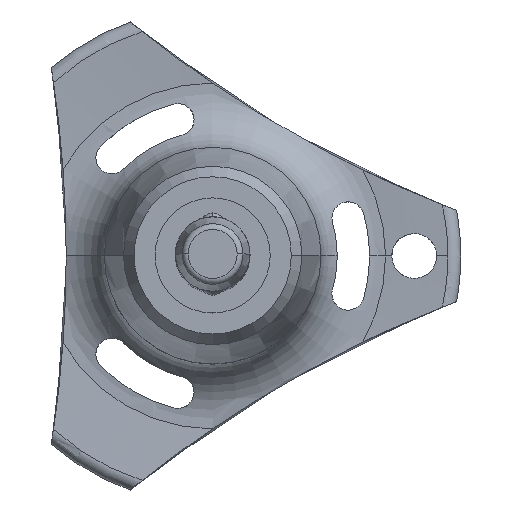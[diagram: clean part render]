
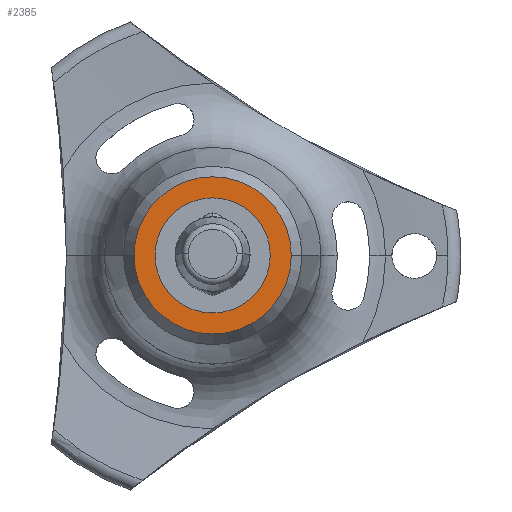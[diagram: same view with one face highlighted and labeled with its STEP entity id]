
A CAD part, top view. The second image highlights one B-rep face of the part: STEP entity #2385.
In plain terms, the highlighted planar face has unit normal (0, 0, 1).
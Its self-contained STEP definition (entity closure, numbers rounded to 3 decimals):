
#142 = EDGE_CURVE ( 'NONE', #434, #2759, #151, .T. ) ;
#151 = CIRCLE ( 'NONE', #2487, 3.852 ) ;
#228 = EDGE_CURVE ( 'NONE', #2759, #434, #1050, .T. ) ;
#318 = EDGE_CURVE ( 'NONE', #1292, #2617, #1139, .T. ) ;
#330 = CARTESIAN_POINT ( 'NONE',  ( 0., 0., -50.4 ) ) ;
#388 = FACE_OUTER_BOUND ( 'NONE', #2624, .T. ) ;
#391 = ORIENTED_EDGE ( 'NONE', *, *, #228, .T. ) ;
#406 = PLANE ( 'NONE',  #1776 ) ;
#434 = VERTEX_POINT ( 'NONE', #1289 ) ;
#535 = DIRECTION ( 'NONE',  ( -1., 0., 0. ) ) ;
#560 = AXIS2_PLACEMENT_3D ( 'NONE', #330, #1800, #573 ) ;
#573 = DIRECTION ( 'NONE',  ( -1., 0., 0. ) ) ;
#599 = CARTESIAN_POINT ( 'NONE',  ( 0., 3.852, -50.4 ) ) ;
#632 = DIRECTION ( 'NONE',  ( 0., 0., 1. ) ) ;
#833 = AXIS2_PLACEMENT_3D ( 'NONE', #1857, #1980, #2367 ) ;
#951 = CARTESIAN_POINT ( 'NONE',  ( 0., 0., -50.4 ) ) ;
#1050 = CIRCLE ( 'NONE', #560, 3.852 ) ;
#1139 = CIRCLE ( 'NONE', #1586, 5.262 ) ;
#1262 = DIRECTION ( 'NONE',  ( 1., 0., 0. ) ) ;
#1289 = CARTESIAN_POINT ( 'NONE',  ( 3.852, 0., -50.4 ) ) ;
#1292 = VERTEX_POINT ( 'NONE', #1938 ) ;
#1586 = AXIS2_PLACEMENT_3D ( 'NONE', #2570, #1872, #2521 ) ;
#1663 = CARTESIAN_POINT ( 'NONE',  ( -3.852, 0., -50.4 ) ) ;
#1776 = AXIS2_PLACEMENT_3D ( 'NONE', #599, #632, #1262 ) ;
#1800 = DIRECTION ( 'NONE',  ( 0., 0., -1. ) ) ;
#1807 = ORIENTED_EDGE ( 'NONE', *, *, #318, .F. ) ;
#1827 = CARTESIAN_POINT ( 'NONE',  ( -5.262, 0., -50.4 ) ) ;
#1857 = CARTESIAN_POINT ( 'NONE',  ( 0., 0., -50.4 ) ) ;
#1872 = DIRECTION ( 'NONE',  ( 0., 0., -1. ) ) ;
#1880 = EDGE_LOOP ( 'NONE', ( #391, #2578 ) ) ;
#1938 = CARTESIAN_POINT ( 'NONE',  ( 5.262, 0., -50.4 ) ) ;
#1980 = DIRECTION ( 'NONE',  ( 0., 0., -1. ) ) ;
#2266 = CIRCLE ( 'NONE', #833, 5.262 ) ;
#2367 = DIRECTION ( 'NONE',  ( -1., 0., 0. ) ) ;
#2385 = ADVANCED_FACE ( 'NONE', ( #2554, #388 ), #406, .T. ) ;
#2403 = ORIENTED_EDGE ( 'NONE', *, *, #2476, .F. ) ;
#2476 = EDGE_CURVE ( 'NONE', #2617, #1292, #2266, .T. ) ;
#2487 = AXIS2_PLACEMENT_3D ( 'NONE', #951, #2661, #535 ) ;
#2521 = DIRECTION ( 'NONE',  ( -1., 0., 0. ) ) ;
#2554 = FACE_BOUND ( 'NONE', #1880, .T. ) ;
#2570 = CARTESIAN_POINT ( 'NONE',  ( 0., 0., -50.4 ) ) ;
#2578 = ORIENTED_EDGE ( 'NONE', *, *, #142, .T. ) ;
#2617 = VERTEX_POINT ( 'NONE', #1827 ) ;
#2624 = EDGE_LOOP ( 'NONE', ( #2403, #1807 ) ) ;
#2661 = DIRECTION ( 'NONE',  ( 0., 0., -1. ) ) ;
#2759 = VERTEX_POINT ( 'NONE', #1663 ) ;
